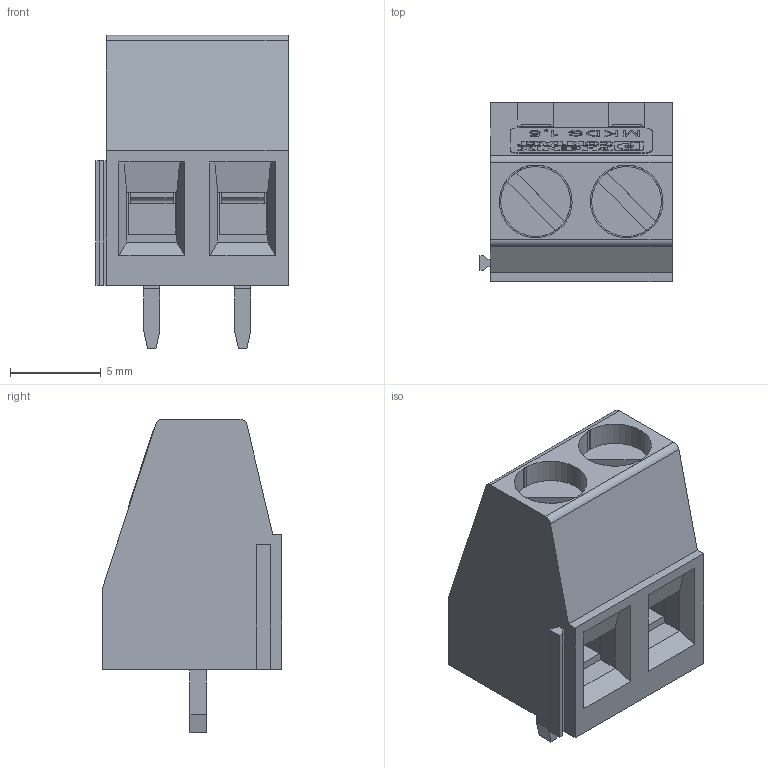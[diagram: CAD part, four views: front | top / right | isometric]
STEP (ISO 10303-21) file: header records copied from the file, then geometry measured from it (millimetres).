
FILE_DESCRIPTION(('STEP AP214'),'1');
FILE_NAME('cctmp_CACC793E-9710-46F3-862A-8D00791738EB_2025_06_13_06_54_17_0169_7016..stp','2025-06-13T06:54:17',('PHOENIX CONTACT Deutschland GmbH'),('CADClick - www.CADClick.com'),'Spatial InterOp 3D',' ','unknown authorization');
FILE_SCHEMA(('AUTOMOTIVE_DESIGN'));
Length unit declared in the file: millimetre
Products named in the file (8): 2025_06_13_06_54_16_0816; 2025_06_13_06_54_17_0169; 2025_06_13_06_54_17_0153; 2025_06_13_06_54_17_0138; 2025_06_13_06_54_17_0122; 2025_06_13_06_54_17_0106; 2025_06_13_06_54_17_0091; 2025_06_13_06_54_17_0051
Assembly tree (7 placements, depth 2):
  2025_06_13_06_54_16_0816
    2025_06_13_06_54_17_0169
    2025_06_13_06_54_17_0153
    2025_06_13_06_54_17_0138
    2025_06_13_06_54_17_0122
    2025_06_13_06_54_17_0106
    2025_06_13_06_54_17_0091
    2025_06_13_06_54_17_0051
Bounding box: 10.57 x 9.88 x 17.25 mm (x, y, z)
Volume: 834.2 mm3; surface area: 1966.1 mm2
Topology: 7 solids, 7 shells, 656 faces, 1796 edges, 1184 vertices
Faces by surface type: plane 558, cylinder 80, bspline 18
Entity records: 38836 total; most frequent: CARTESIAN_POINT 4854, ORIENTED_EDGE 3592, DIRECTION 3236, STYLED_ITEM 3018, PRESENTATION_STYLE_ASSIGNMENT 3018, COLOUR_RGB 3018, EDGE_CURVE 1796, LINE 1576
